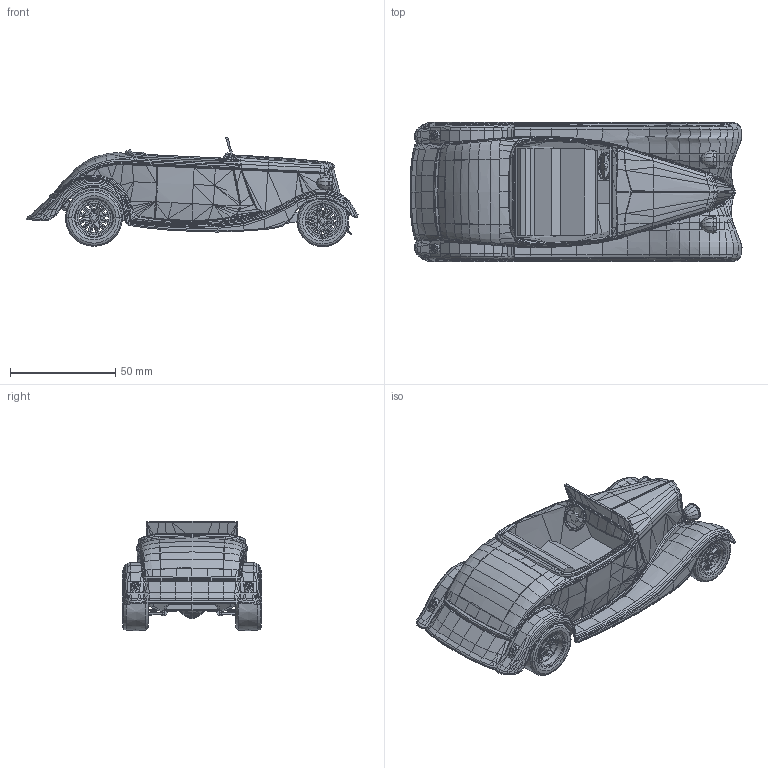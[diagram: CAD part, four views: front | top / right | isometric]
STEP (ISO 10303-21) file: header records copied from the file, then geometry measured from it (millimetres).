
FILE_DESCRIPTION (( 'STEP AP214' ), '1' );
FILE_NAME ('old car 1-STP.STEP', '2012-08-28T15:01:02', ( '' ), ( '' ), 'SwSTEP 2.0', 'SolidWorks 2011', '' );
FILE_SCHEMA (( 'AUTOMOTIVE_DESIGN' ));
Length unit declared in the file: inch
Products named in the file (14): 02ZCAR16-13; 02ZCAR16-12; 02ZCAR16-11; 02ZCAR16-10; 02ZCAR16-9; 02ZCAR16-8; 02ZCAR16-7; 02ZCAR16-6; 02ZCAR16-5; 02ZCAR16-4; 02ZCAR16-3; 02ZCAR16-2; 02ZCAR16-1; old car 1-STP
Assembly tree (13 placements, depth 2):
  old car 1-STP
    02ZCAR16-4
    02ZCAR16-1
    02ZCAR16-10
    02ZCAR16-12
    02ZCAR16-2
    02ZCAR16-3
    02ZCAR16-5
    02ZCAR16-13
    02ZCAR16-8
    02ZCAR16-6
    02ZCAR16-7
    02ZCAR16-9
    02ZCAR16-11
Bounding box: 157.53 x 66.07 x 51.98 mm (x, y, z)
Surface area: 46185.2 mm2 (no closed solid volume)
Topology: 0 solids, 343 shells, 4445 faces, 10205 edges, 6050 vertices
Faces by surface type: plane 2474, bspline 1883, cone 76, cylinder 12
Entity records: 206588 total; most frequent: CARTESIAN_POINT 72370, ORIENTED_EDGE 17644, DIRECTION 13284, EDGE_CURVE 10162, VECTOR 7936, LINE 7936, VERTEX_POINT 6050, EDGE_LOOP 4461
